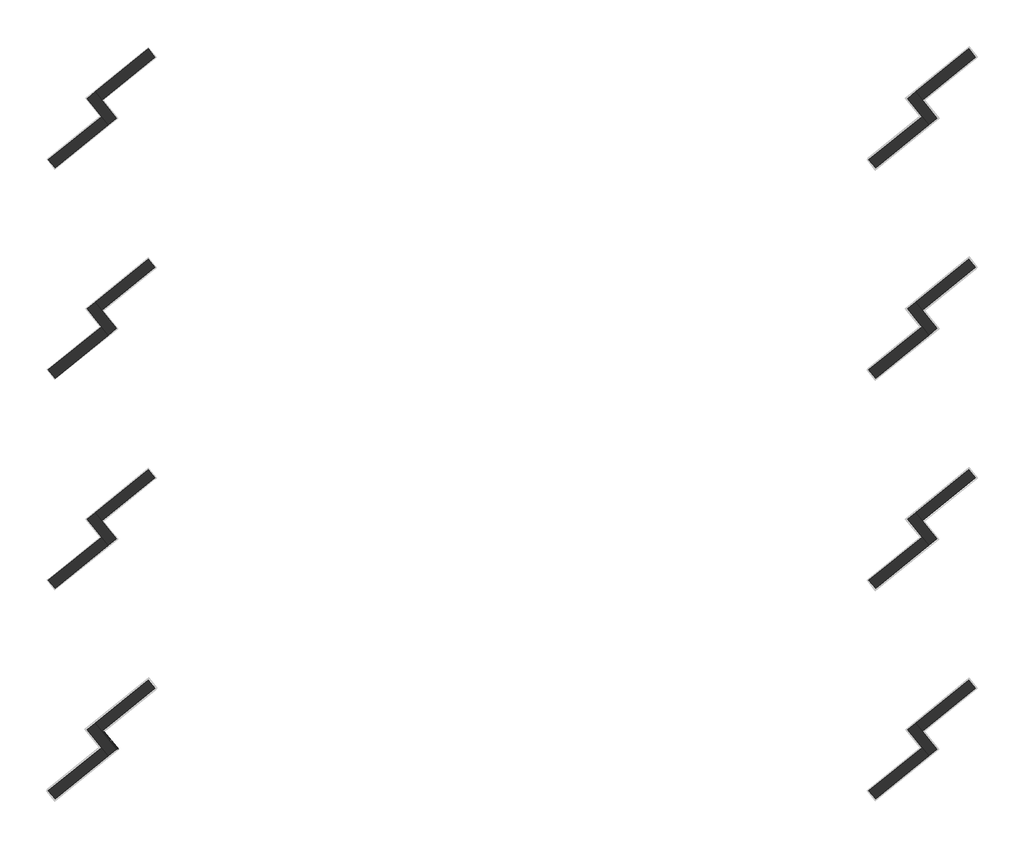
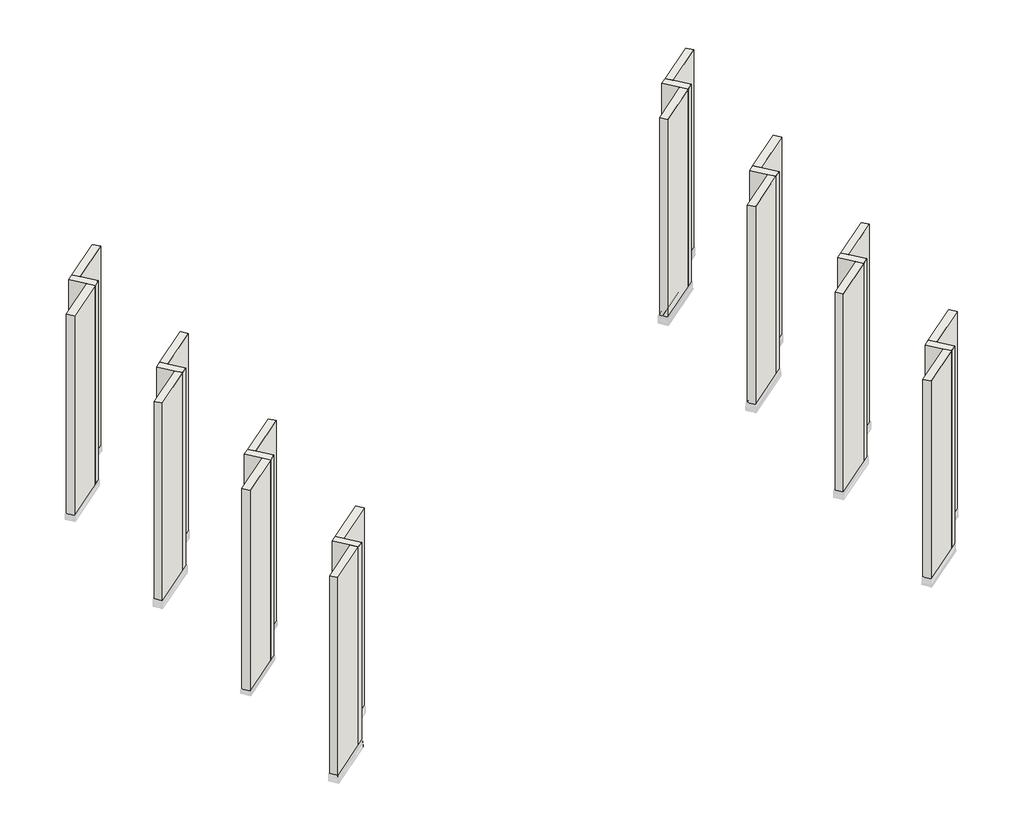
# One storey, part 1 of 21: 24 walls, 1 proxy.
"""IFC4 building model written with IfcOpenShell, lengths in millimetres."""

from ifc_helpers import new_model, si_unit, frame, origin, origin_with_axes, place, context, project, spatial, polyline, ellipse_curve, outline, extrude, faceted_brep, element, save
from ifc_brep_helpers import plane_surface, cylinder_surface, advanced_brep

model = new_model("IFC4")

# Units and contexts
model_context = context("Model", 3, world=origin())
ifc_project = project(units=[si_unit("LENGTHUNIT", "METRE", prefix="MILLI")], contexts=[model_context])

# Site, building, storey
site = spatial("IfcSite", under=ifc_project)
building = spatial("IfcBuilding", under=site)
storey = spatial("IfcBuildingStorey", under=building, Name="Izofleks 2D View", Elevation=0.0)

# Proxy
placement = place(None, origin())
element("IfcBuildingElementProxy", 1, Name="Wall Sweeps", at=placement, inside=storey, context=model_context, shape_type="AdvancedBrep", body=[
    advanced_brep(
    [(2310.0098051, -9175.9636256, 4.0913258), (2305.8972792, -9175.5313817, 4.0913258), (2305.8972792, -9175.5313817, 1.6712284), (2304.0535551, -9175.3375985, 1.6712284), (2304.0535551, -9175.3375985, 5.4018616), (2308.0598115, -9175.758673, 5.4018616), (2304.9170356, -9175.4283539, 29.4074278), (2297.2691492, -9174.6245287, 29.4074278), (2296.6513787, -9174.5595984, 27.7479135), (2297.3546937, -9174.6335198, 27.19808), (2294.5883072, -9174.3427608, 18.30079), (2296.8922655, -9174.5849166, 18.30079), (2296.8983438, -9174.5855554, 16.99999), (2289.8664199, -9173.8464705, 16.99999), (2289.8664199, -9173.8464705, 0.0), (2288.0380278, -9173.6542987, 0.0), (2288.0380278, -9173.6542987, 54.99999), (2289.8664199, -9173.8464705, 53.99999), (2289.8664199, -9173.8464705, 47.88979), (2292.7262724, -9174.1470531, 47.88979), (2293.3459448, -9174.2121833, 48.7737404), (2291.5537649, -9174.0238176, 49.9746979), (2293.8573559, -9174.2659347, 58.8370339), (2295.2404015, -9174.4112987, 59.6553004), (2300.994013, -9175.0160276, 59.6553004), (2295.3904336, -9174.4270677, 97.8474508), (2292.5268231, -9174.1260901, 97.8474508), (2292.5268231, -9174.1260901, 95.8923058), (2287.9670663, -9173.6468403, 95.8923058), (2287.9577385, -9173.64586, 97.1334422), (2290.7230749, -9173.9365085, 97.1334422), (2290.7230749, -9173.9365085, 99.0999564), (2296.9984662, -9174.5960787, 99.0999564), (2448.4602911, -9346.9357371, 4.0913258), (2435.4489522, -9345.5681903, 99.0999564), (2429.1735609, -9344.90862, 99.0999564), (2429.1735609, -9344.90862, 97.1334422), (2426.4082246, -9344.6179715, 97.1334422), (2426.4175523, -9344.6189519, 95.8923058), (2430.9773091, -9345.0982016, 95.8923058), (2430.9773091, -9345.0982016, 97.8474508), (2433.8409196, -9345.3991792, 97.8474508), (2439.444499, -9345.9881391, 59.6553004), (2433.6908876, -9345.3834102, 59.6553004), (2432.307842, -9345.2380463, 58.8370339), (2430.0042509, -9344.9959291, 49.9746979), (2431.7964309, -9345.1842948, 48.7737404), (2431.1767584, -9345.1191646, 47.88979), (2428.316906, -9344.818582, 47.88979), (2428.316906, -9344.818582, 53.99999), (2426.4885138, -9344.6264102, 54.99999), (2426.4885138, -9344.6264102, 0.0), (2428.316906, -9344.818582, 0.0), (2428.316906, -9344.818582, 16.99999), (2435.3488299, -9345.557667, 16.99999), (2435.3427515, -9345.5570281, 18.30079), (2433.0387933, -9345.3148723, 18.30079), (2435.8051798, -9345.6056313, 27.19808), (2435.1018647, -9345.5317099, 27.7479135), (2435.7196353, -9345.5966402, 29.4074278), (2443.3675216, -9346.4004654, 29.4074278), (2446.5102976, -9346.7307845, 5.4018616), (2442.5040411, -9346.30971, 5.4018616), (2442.5040411, -9346.30971, 1.6712284), (2444.3477653, -9346.5034932, 1.6712284), (2444.3477653, -9346.5034932, 4.0913258)],
    [
        (0, 1),
        (1, 2),
        (2, 3),
        (3, 4),
        (4, 5),
        (5, 6),
        (6, 7),
        (7, 8),
        (8, 9, ellipse_curve(frame((2296.6460985, -9174.5590434, 27.2421879), z_axis=(0.10452846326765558, 0.9945218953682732, 0.0), x_axis=(-0.994521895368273, 0.10452846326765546, 0.0)), 0.7152237, 0.5057396)),
        (9, 10),
        (10, 11),
        (11, 12, ellipse_curve(frame((2296.7280877, -9174.5676608, 17.649995), z_axis=(0.10452846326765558, 0.9945218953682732, 0.0), x_axis=(-0.9945218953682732, 0.10452846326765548, 0.0)), 0.935051, 0.6611809)),
        (12, 13),
        (13, 14),
        (14, 15),
        (15, 16),
        (16, 17, ellipse_curve(frame((2288.3885058, -9173.6911354, 53.9789482), z_axis=(0.10452846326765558, 0.9945218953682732, 0.0), x_axis=(-0.9945218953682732, 0.1045284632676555, 0.0)), 1.4863528, 1.0510102)),
        (17, 18),
        (18, 19),
        (19, 20),
        (20, 21, ellipse_curve(frame((2293.0254337, -9174.1784962, 49.8084295), z_axis=(0.10452846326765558, 0.9945218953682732, 0.0), x_axis=(-0.9945218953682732, 0.10452846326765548, 0.0)), 1.4983408, 1.0594869)),
        (21, 22),
        (22, 23, ellipse_curve(frame((2295.2404015, -9174.4112987, 58.6553004), z_axis=(0.10452846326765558, 0.9945218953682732, 0.0), x_axis=(-0.9945218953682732, 0.10452846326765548, 0.0)), 1.4142136, 1.0)),
        (23, 24),
        (24, 25),
        (25, 26),
        (26, 27),
        (27, 28),
        (28, 29),
        (29, 30),
        (30, 31),
        (31, 32),
        (32, 0),
        (33, 34),
        (34, 35),
        (35, 36),
        (36, 37),
        (37, 38),
        (38, 39),
        (39, 40),
        (40, 41),
        (41, 42),
        (42, 43),
        (43, 44, ellipse_curve(frame((2433.6908876, -9345.3834102, 58.6553004), z_axis=(-0.1045284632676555, -0.9945218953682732, 0.0), x_axis=(-0.9945218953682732, 0.1045284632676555, 0.0)), 1.4142136, 1.0)),
        (44, 45),
        (45, 46, ellipse_curve(frame((2431.4759198, -9345.1506077, 49.8084295), z_axis=(-0.1045284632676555, -0.9945218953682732, 0.0), x_axis=(-0.9945218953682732, 0.1045284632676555, 0.0)), 1.4983408, 1.0594869)),
        (46, 47),
        (47, 48),
        (48, 49),
        (49, 50, ellipse_curve(frame((2426.8389918, -9344.663247, 53.9789482), z_axis=(-0.1045284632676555, -0.9945218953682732, 0.0), x_axis=(-0.9945218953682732, 0.10452846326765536, 0.0)), 1.4863528, 1.0510102)),
        (50, 51),
        (51, 52),
        (52, 53),
        (53, 54),
        (54, 55, ellipse_curve(frame((2435.1785737, -9345.5397723, 17.649995), z_axis=(-0.1045284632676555, -0.9945218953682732, 0.0), x_axis=(-0.9945218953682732, 0.1045284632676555, 0.0)), 0.935051, 0.6611809)),
        (55, 56),
        (56, 57),
        (57, 58, ellipse_curve(frame((2435.0965845, -9345.5311549, 27.2421879), z_axis=(-0.1045284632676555, -0.9945218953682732, 0.0), x_axis=(-0.9945218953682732, 0.10452846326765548, 0.0)), 0.7152237, 0.5057396)),
        (58, 59),
        (59, 60),
        (60, 61),
        (61, 62),
        (62, 63),
        (63, 64),
        (64, 65),
        (65, 33),
        (0, 33),
        (65, 1),
        (64, 2),
        (63, 3),
        (62, 4),
        (61, 5),
        (60, 6),
        (59, 7),
        (58, 8),
        (57, 9),
        (56, 10),
        (55, 11),
        (54, 12),
        (53, 13),
        (52, 14),
        (51, 15),
        (50, 16),
        (49, 17),
        (48, 18),
        (47, 19),
        (46, 20),
        (45, 21),
        (44, 22),
        (43, 23),
        (42, 24),
        (41, 25),
        (40, 26),
        (39, 27),
        (38, 28),
        (37, 29),
        (36, 30),
        (35, 31),
        (34, 32),
    ],
    [
        plane_surface(frame((2288.0380278, -9173.6542987, -304.8), z_axis=(0.10452846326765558, 0.9945218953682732, 0.0), x_axis=(0.9945218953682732, -0.10452846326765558, 0.0))),
        plane_surface(frame((2426.4885138, -9344.6264102, 304.8), z_axis=(-0.1045284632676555, -0.9945218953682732, 0.0), x_axis=(-0.9945218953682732, 0.1045284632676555, 0.0))),
        plane_surface(frame((2310.0098051, -9175.9636256, 4.0913258), z_axis=(0.0, 0.0, -1.0), x_axis=(0.6293203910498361, -0.777145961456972, 0.0))),
        plane_surface(frame((2305.8972792, -9175.5313817, 4.0913258), z_axis=(0.7771459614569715, 0.6293203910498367, 0.0), x_axis=(0.6293203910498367, -0.7771459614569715, 0.0))),
        plane_surface(frame((2305.8972792, -9175.5313817, 1.6712284), z_axis=(0.0, 0.0, -1.0), x_axis=(0.6293203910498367, -0.7771459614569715, 0.0))),
        plane_surface(frame((2304.0535551, -9175.3375985, 1.6712284), z_axis=(-0.7771459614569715, -0.6293203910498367, 0.0), x_axis=(0.6293203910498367, -0.7771459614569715, 0.0))),
        plane_surface(frame((2304.0535551, -9175.3375985, 5.4018616), z_axis=(0.0, 0.0, 1.0), x_axis=(0.6293203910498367, -0.7771459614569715, 0.0))),
        plane_surface(frame((2308.0598115, -9175.758673, 5.4018616), z_axis=(-0.7738008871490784, -0.626611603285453, -0.09268271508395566), x_axis=(0.6293203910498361, -0.777145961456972, 0.0))),
        plane_surface(frame((2304.9170356, -9175.4283539, 29.4074278), z_axis=(0.0, 0.0, -1.0), x_axis=(0.6293203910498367, -0.7771459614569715, 0.0))),
        plane_surface(frame((2297.2691492, -9174.6245287, 29.4074278), z_axis=(0.7512763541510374, 0.6083715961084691, -0.2558668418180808), x_axis=(0.6293203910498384, -0.7771459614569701, 0.0))),
        cylinder_surface(frame((2292.7944355, -9169.8026357, 27.2421879), z_axis=(-0.6293203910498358, 0.7771459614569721, 0.0), x_axis=(0.00576896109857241, 0.004671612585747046, 0.9999724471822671)), 0.5057396),
        plane_surface(frame((2297.3546937, -9174.6335198, 27.19808), z_axis=(0.7588248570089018, 0.6144842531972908, -0.21585629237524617), x_axis=(0.6293203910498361, -0.777145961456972, 0.0))),
        plane_surface(frame((2294.5883072, -9174.3427608, 18.30079), z_axis=(0.0, 0.0, 1.0), x_axis=(0.6293203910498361, -0.777145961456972, 0.0))),
        cylinder_surface(frame((2292.8397388, -9169.7659498, 17.649995), z_axis=(-0.6293203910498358, 0.7771459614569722, 0.0), x_axis=(0.1422838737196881, 0.11521920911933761, 0.9830970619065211)), 0.6611809),
        plane_surface(frame((2296.8983438, -9174.5855554, 16.99999), z_axis=(0.0, 0.0, -1.0), x_axis=(0.6293203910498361, -0.777145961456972, 0.0))),
        plane_surface(frame((2289.8664199, -9173.8464705, 16.99999), z_axis=(0.777145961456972, 0.6293203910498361, 0.0), x_axis=(0.6293203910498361, -0.777145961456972, 0.0))),
        plane_surface(frame((2289.8664199, -9173.8464705, 0.0), z_axis=(0.0, 0.0, -1.0), x_axis=(0.6293203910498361, -0.777145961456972, 0.0))),
        plane_surface(frame((2288.0380278, -9173.6542987, 0.0), z_axis=(-0.777145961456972, -0.6293203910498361, 0.0), x_axis=(0.6293203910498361, -0.777145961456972, 0.0))),
        cylinder_surface(frame((2288.2316851, -9173.497478, 53.9789482), z_axis=(-0.6293203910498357, 0.7771459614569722, 0.0), x_axis=(-0.18425834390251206, -0.14920946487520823, 0.9714861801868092)), 1.0510102),
        plane_surface(frame((2289.8664199, -9173.8464705, 53.99999), z_axis=(0.777145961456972, 0.6293203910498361, 0.0), x_axis=(0.6293203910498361, -0.777145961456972, 0.0))),
        plane_surface(frame((2289.8664199, -9173.8464705, 47.88979), z_axis=(0.0, 0.0, 1.0), x_axis=(0.6293203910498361, -0.777145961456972, 0.0))),
        plane_surface(frame((2292.7262724, -9174.1470531, 47.88979), z_axis=(-0.6955364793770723, -0.5632343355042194, 0.4460897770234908), x_axis=(0.6293203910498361, -0.777145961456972, 0.0))),
        cylinder_surface(frame((2290.7938295, -9171.4226945, 49.8084295), z_axis=(-0.6293203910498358, 0.7771459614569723, 0.0), x_axis=(0.16715552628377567, 0.1353598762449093, -0.9765944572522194)), 1.0594869),
        plane_surface(frame((2291.5537649, -9174.0238176, 49.9746979), z_axis=(-0.7642047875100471, -0.6188408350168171, 0.18173349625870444), x_axis=(0.6293203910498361, -0.777145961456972, 0.0))),
        cylinder_surface(frame((2292.0177146, -9170.4316118, 58.6553004), z_axis=(-0.629320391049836, 0.7771459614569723, 0.0), x_axis=(-0.7642047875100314, -0.618840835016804, 0.1817334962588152)), 1.0),
        plane_surface(frame((2295.2404015, -9174.4112987, 59.6553004), z_axis=(0.0, 0.0, 1.0), x_axis=(0.6293203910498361, -0.777145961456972, 0.0))),
        plane_surface(frame((2300.994013, -9175.0160276, 59.6553004), z_axis=(-0.7729515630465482, -0.6259238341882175, -0.1037556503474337), x_axis=(0.6293203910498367, -0.7771459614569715, 0.0))),
        plane_surface(frame((2295.3904336, -9174.4270677, 97.8474508), z_axis=(0.0, 0.0, -1.0), x_axis=(0.6293203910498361, -0.777145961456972, 0.0))),
        plane_surface(frame((2292.5268231, -9174.1260901, 97.8474508), z_axis=(0.777145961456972, 0.6293203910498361, 0.0), x_axis=(0.6293203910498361, -0.777145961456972, 0.0))),
        plane_surface(frame((2292.5268231, -9174.1260901, 95.8923058), z_axis=(0.0, 0.0, -1.0), x_axis=(0.6293203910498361, -0.777145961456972, 0.0))),
        plane_surface(frame((2287.9670663, -9173.6468403, 95.8923058), z_axis=(-0.7771348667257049, -0.6293114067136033, -0.0053434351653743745), x_axis=(0.6293203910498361, -0.777145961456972, 0.0))),
        plane_surface(frame((2287.9577385, -9173.64586, 97.1334422), z_axis=(0.0, 0.0, 1.0), x_axis=(0.6293203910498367, -0.7771459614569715, 0.0))),
        plane_surface(frame((2290.7230749, -9173.9365085, 97.1334422), z_axis=(-0.777145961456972, -0.6293203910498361, 0.0), x_axis=(0.6293203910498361, -0.777145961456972, 0.0))),
        plane_surface(frame((2290.7230749, -9173.9365085, 99.0999564), z_axis=(0.0, 0.0, 1.0), x_axis=(0.6293203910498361, -0.777145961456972, 0.0))),
        plane_surface(frame((2296.9984662, -9174.5960787, 99.0999564), z_axis=(0.7734878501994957, 0.6263581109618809, 0.09691265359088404), x_axis=(0.6293203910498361, -0.777145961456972, 0.0))),
    ],
    [
        (0, [[1, 2, 3, 4, 5, 6, 7, 8, 9, 10, 11, 12, 13, 14, 15, 16, 17, 18, 19, 20, 21, 22, 23, 24, 25, 26, 27, 28, 29, 30, 31, 32, 33]]),
        (1, [[34, 35, 36, 37, 38, 39, 40, 41, 42, 43, 44, 45, 46, 47, 48, 49, 50, 51, 52, 53, 54, 55, 56, 57, 58, 59, 60, 61, 62, 63, 64, 65, 66]]),
        (2, [[-1, 67, -66, 68]]),
        (3, [[-2, -68, -65, 69]]),
        (4, [[-3, -69, -64, 70]]),
        (5, [[-4, -70, -63, 71]]),
        (6, [[-5, -71, -62, 72]]),
        (7, [[-6, -72, -61, 73]]),
        (8, [[-7, -73, -60, 74]]),
        (9, [[-8, -74, -59, 75]]),
        (10, [[-9, -75, -58, 76]]),
        (11, [[-10, -76, -57, 77]]),
        (12, [[-11, -77, -56, 78]]),
        (13, [[-12, -78, -55, 79]]),
        (14, [[-13, -79, -54, 80]]),
        (15, [[-14, -80, -53, 81]]),
        (16, [[-15, -81, -52, 82]]),
        (17, [[-16, -82, -51, 83]]),
        (18, [[-17, -83, -50, 84]]),
        (19, [[-18, -84, -49, 85]]),
        (20, [[-19, -85, -48, 86]]),
        (21, [[-20, -86, -47, 87]]),
        (22, [[-21, -87, -46, 88]]),
        (23, [[-22, -88, -45, 89]]),
        (24, [[-23, -89, -44, 90]]),
        (25, [[-24, -90, -43, 91]]),
        (26, [[-25, -91, -42, 92]]),
        (27, [[-26, -92, -41, 93]]),
        (28, [[-27, -93, -40, 94]]),
        (29, [[-28, -94, -39, 95]]),
        (30, [[-29, -95, -38, 96]]),
        (31, [[-30, -96, -37, 97]]),
        (32, [[-31, -97, -36, 98]]),
        (33, [[-32, -98, -35, 99]]),
        (34, [[-33, -99, -34, -67]]),
    ],
),
])

# Walls
element("IfcWall", 2, ObjectType="Generic - 100mm - B11-1", at=placement, inside=storey, context=model_context, shape_type="Brep", body=[
    faceted_brep([(2730.2508636, -2686.8814484, 0.0), (2225.1059886, -3095.9397026, 0.0), (2225.1059886, -3095.9397026, 54.9539392), (2225.1059886, -3095.9397026, 2850.0), (2730.2508636, -2686.8814484, 2850.0), (2730.2508636, -2686.8814484, 54.9539392), (2288.0380278, -3173.6542987, 0.0), (2793.1829027, -2764.5960445, 0.0), (2793.1829027, -2764.5960445, 54.9539392), (2793.1829027, -2764.5960445, 2850.0), (2288.0380278, -3173.6542987, 2850.0), (2288.0380278, -3173.6542987, 54.9539392)], [[[0, 1, 2, 3, 4, 5]], [[6, 7, 8, 9, 10, 11]], [[1, 0, 7, 6]], [[4, 3, 10, 9]], [[4, 9, 8, 7, 0, 5]], [[1, 6, 11, 10, 3, 2]]]),
])
element("IfcWall", 3, ObjectType="Generic - 100mm - B11-1", at=placement, inside=storey, context=model_context, shape_type="Brep", body=[
    faceted_brep([(2348.7739176, -3407.5584493, 2850.0), (2285.8418785, -3329.8438532, 2850.0), (2147.3913925, -3158.8717417, 2850.0), (2147.3913925, -3158.8717417, 54.9539392), (2147.3913925, -3158.8717417, 0.0), (2285.8418785, -3329.8438532, 0.0), (2348.7739176, -3407.5584493, 0.0), (2348.7739176, -3407.5584493, 54.9539392), (2225.1059886, -3095.9397026, 2850.0), (2288.0380278, -3173.6542987, 2850.0), (2426.4885138, -3344.6264102, 2850.0), (2426.4885138, -3344.6264102, 54.9539392), (2426.4885138, -3344.6264102, 0.0), (2288.0380278, -3173.6542987, 0.0), (2225.1059886, -3095.9397026, 0.0), (2225.1059886, -3095.9397026, 54.9539392)], [[[0, 1, 2, 3, 4, 5, 6, 7]], [[8, 9, 10, 11, 12, 13, 14, 15]], [[4, 14, 13, 12, 6, 5]], [[2, 1, 0, 10, 9, 8]], [[2, 8, 15, 14, 4, 3]], [[6, 12, 11, 10, 0, 7]]]),
])
element("IfcWall", 4, ObjectType="Generic - 100mm - B11-1", at=placement, inside=storey, context=model_context, shape_type="Brep", body=[
    faceted_brep([(2285.8418785, -3329.8438532, 0.0), (1780.6970036, -3738.9021074, 0.0), (1780.6970036, -3738.9021074, 54.9539392), (1780.6970036, -3738.9021074, 2850.0), (2285.8418785, -3329.8438532, 2850.0), (2285.8418785, -3329.8438532, 54.9539392), (1843.6290427, -3816.6167035, 0.0), (2348.7739176, -3407.5584493, 0.0), (2348.7739176, -3407.5584493, 54.9539392), (2348.7739176, -3407.5584493, 2850.0), (1843.6290427, -3816.6167035, 2850.0), (1843.6290427, -3816.6167035, 54.9539392)], [[[0, 1, 2, 3, 4, 5]], [[6, 7, 8, 9, 10, 11]], [[1, 0, 7, 6]], [[1, 6, 11, 10, 3, 2]], [[4, 3, 10, 9]], [[4, 9, 8, 7, 0, 5]]]),
])
element("IfcWall", 5, ObjectType="Generic - 100mm - B11-2", at=placement, inside=storey, context=model_context, shape_type="Brep", body=[
    faceted_brep([(2730.2508636, -4686.8814484, 0.0), (2225.1059886, -5095.9397026, 0.0), (2225.1059886, -5095.9397026, 54.99999), (2225.1059886, -5095.9397026, 2850.0), (2730.2508636, -4686.8814484, 2850.0), (2730.2508636, -4686.8814484, 54.99999), (2288.0380278, -5173.6542987, 0.0), (2793.1829027, -4764.5960445, 0.0), (2793.1829027, -4764.5960445, 54.99999), (2793.1829027, -4764.5960445, 2850.0), (2288.0380278, -5173.6542987, 2850.0), (2288.0380278, -5173.6542987, 54.99999)], [[[0, 1, 2, 3, 4, 5]], [[6, 7, 8, 9, 10, 11]], [[1, 0, 7, 6]], [[4, 3, 10, 9]], [[4, 9, 8, 7, 0, 5]], [[1, 6, 11, 10, 3, 2]]]),
])
element("IfcWall", 6, ObjectType="Generic - 100mm - B11-2", at=placement, inside=storey, context=model_context, shape_type="Brep", body=[
    faceted_brep([(2348.7739176, -5407.5584493, 2850.0), (2285.8418785, -5329.8438532, 2850.0), (2147.3913925, -5158.8717417, 2850.0), (2147.3913925, -5158.8717417, 54.99999), (2147.3913925, -5158.8717417, 0.0), (2285.8418785, -5329.8438532, 0.0), (2348.7739176, -5407.5584493, 0.0), (2348.7739176, -5407.5584493, 54.99999), (2225.1059886, -5095.9397026, 2850.0), (2288.0380278, -5173.6542987, 2850.0), (2426.4885138, -5344.6264102, 2850.0), (2426.4885138, -5344.6264102, 54.99999), (2426.4885138, -5344.6264102, 0.0), (2288.0380278, -5173.6542987, 0.0), (2225.1059886, -5095.9397026, 0.0), (2225.1059886, -5095.9397026, 54.99999)], [[[0, 1, 2, 3, 4, 5, 6, 7]], [[8, 9, 10, 11, 12, 13, 14, 15]], [[4, 14, 13, 12, 6, 5]], [[2, 1, 0, 10, 9, 8]], [[2, 8, 15, 14, 4, 3]], [[6, 12, 11, 10, 0, 7]]]),
])
element("IfcWall", 7, ObjectType="Generic - 100mm - B11-2", at=placement, inside=storey, context=model_context, shape_type="Brep", body=[
    faceted_brep([(2285.8418785, -5329.8438532, 0.0), (1780.6970036, -5738.9021074, 0.0), (1780.6970036, -5738.9021074, 54.99999), (1780.6970036, -5738.9021074, 2850.0), (2285.8418785, -5329.8438532, 2850.0), (2285.8418785, -5329.8438532, 54.99999), (1843.6290427, -5816.6167035, 0.0), (2348.7739176, -5407.5584493, 0.0), (2348.7739176, -5407.5584493, 54.99999), (2348.7739176, -5407.5584493, 2850.0), (1843.6290427, -5816.6167035, 2850.0), (1843.6290427, -5816.6167035, 54.99999)], [[[0, 1, 2, 3, 4, 5]], [[6, 7, 8, 9, 10, 11]], [[1, 0, 7, 6]], [[1, 6, 11, 10, 3, 2]], [[4, 3, 10, 9]], [[4, 9, 8, 7, 0, 5]]]),
])
element("IfcWall", 8, ObjectType="Generic - 100mm - B11-3", at=placement, inside=storey, context=model_context, shape_type="Brep", body=[
    faceted_brep([(2730.2508636, -6686.8814484, 0.0), (2225.1059886, -7095.9397026, 0.0), (2225.1059886, -7095.9397026, 54.99999), (2225.1059886, -7095.9397026, 2850.0), (2730.2508636, -6686.8814484, 2850.0), (2730.2508636, -6686.8814484, 54.99999), (2288.0380278, -7173.6542987, 0.0), (2793.1829027, -6764.5960445, 0.0), (2793.1829027, -6764.5960445, 54.99999), (2793.1829027, -6764.5960445, 2850.0), (2288.0380278, -7173.6542987, 2850.0), (2288.0380278, -7173.6542987, 54.99999)], [[[0, 1, 2, 3, 4, 5]], [[6, 7, 8, 9, 10, 11]], [[1, 0, 7, 6]], [[4, 3, 10, 9]], [[4, 9, 8, 7, 0, 5]], [[1, 6, 11, 10, 3, 2]]]),
])
element("IfcWall", 9, ObjectType="Generic - 100mm - B11-3", at=placement, inside=storey, context=model_context, shape_type="Brep", body=[
    faceted_brep([(2348.7739176, -7407.5584493, 2850.0), (2285.8418785, -7329.8438532, 2850.0), (2147.3913925, -7158.8717417, 2850.0), (2147.3913925, -7158.8717417, 54.99999), (2147.3913925, -7158.8717417, 0.0), (2285.8418785, -7329.8438532, 0.0), (2348.7739176, -7407.5584493, 0.0), (2348.7739176, -7407.5584493, 54.99999), (2225.1059886, -7095.9397026, 2850.0), (2288.0380278, -7173.6542987, 2850.0), (2426.4885138, -7344.6264102, 2850.0), (2426.4885138, -7344.6264102, 54.99999), (2426.4885138, -7344.6264102, 0.0), (2288.0380278, -7173.6542987, 0.0), (2225.1059886, -7095.9397026, 0.0), (2225.1059886, -7095.9397026, 54.99999)], [[[0, 1, 2, 3, 4, 5, 6, 7]], [[8, 9, 10, 11, 12, 13, 14, 15]], [[4, 14, 13, 12, 6, 5]], [[2, 1, 0, 10, 9, 8]], [[2, 8, 15, 14, 4, 3]], [[6, 12, 11, 10, 0, 7]]]),
])
element("IfcWall", 10, ObjectType="Generic - 100mm - B11-3", at=placement, inside=storey, context=model_context, shape_type="Brep", body=[
    faceted_brep([(2285.8418785, -7329.8438532, 0.0), (1780.6970036, -7738.9021074, 0.0), (1780.6970036, -7738.9021074, 54.99999), (1780.6970036, -7738.9021074, 2850.0), (2285.8418785, -7329.8438532, 2850.0), (2285.8418785, -7329.8438532, 54.99999), (1843.6290427, -7816.6167035, 0.0), (2348.7739176, -7407.5584493, 0.0), (2348.7739176, -7407.5584493, 54.99999), (2348.7739176, -7407.5584493, 2850.0), (1843.6290427, -7816.6167035, 2850.0), (1843.6290427, -7816.6167035, 54.99999)], [[[0, 1, 2, 3, 4, 5]], [[6, 7, 8, 9, 10, 11]], [[1, 0, 7, 6]], [[1, 6, 11, 10, 3, 2]], [[4, 3, 10, 9]], [[4, 9, 8, 7, 0, 5]]]),
])
element("IfcWall", 11, ObjectType="Generic - 100mm - B11-4", at=placement, inside=storey, context=model_context, shape_type="Brep", body=[
    faceted_brep([(2730.2508636, -8686.8814484, 0.0), (2225.1059886, -9095.9397026, 0.0), (2225.1059886, -9095.9397026, 54.99999), (2225.1059886, -9095.9397026, 95.8923058), (2225.1059886, -9095.9397026, 97.1334422), (2225.1059886, -9095.9397026, 2850.0), (2730.2508636, -8686.8814484, 2850.0), (2730.2508636, -8686.8814484, 97.1334422), (2730.2508636, -8686.8814484, 95.8923058), (2730.2508636, -8686.8814484, 54.99999), (2793.1829027, -8764.5960445, 0.0), (2793.1829027, -8764.5960445, 54.99999), (2793.1829027, -8764.5960445, 95.8923058), (2793.1829027, -8764.5960445, 97.1334422), (2793.1829027, -8764.5960445, 2850.0), (2288.0380278, -9173.6542987, 2850.0), (2288.0380278, -9173.6542987, 54.99999), (2288.0380278, -9173.6542987, 0.0)], [[[0, 1, 2, 3, 4, 5, 6, 7, 8, 9]], [[10, 11, 12, 13, 14, 15, 16, 17]], [[1, 0, 10, 17]], [[6, 5, 15, 14]], [[0, 9, 8, 7, 6, 14, 13, 12, 11, 10]], [[5, 4, 3, 2, 1, 17, 16, 15]]]),
])
element("IfcWall", 12, ObjectType="Generic - 100mm - B11-4", at=placement, inside=storey, context=model_context, shape_type="Brep", body=[
    faceted_brep([(2147.3913925, -9158.8717417, 0.0), (2285.8418785, -9329.8438532, 0.0), (2348.7739176, -9407.5584493, 0.0), (2348.7739176, -9407.5584493, 54.99999), (2348.7739176, -9407.5584493, 95.8923058), (2348.7739176, -9407.5584493, 97.1334422), (2348.7739176, -9407.5584493, 2850.0), (2285.8418785, -9329.8438532, 2850.0), (2147.3913925, -9158.8717417, 2850.0), (2147.3913925, -9158.8717417, 97.1334422), (2147.3913925, -9158.8717417, 95.8923058), (2147.3913925, -9158.8717417, 54.99999), (2225.1059886, -9095.9397026, 0.0), (2225.1059886, -9095.9397026, 54.99999), (2225.1059886, -9095.9397026, 95.8923058), (2225.1059886, -9095.9397026, 97.1334422), (2225.1059886, -9095.9397026, 2850.0), (2288.0380278, -9173.6542987, 2850.0), (2426.4885138, -9344.6264102, 2850.0), (2426.4885138, -9344.6264102, 97.1334422), (2426.4885138, -9344.6264102, 95.8923058), (2426.4885138, -9344.6264102, 54.99999), (2426.4885138, -9344.6264102, 0.0), (2288.0380278, -9173.6542987, 0.0)], [[[0, 1, 2, 3, 4, 5, 6, 7, 8, 9, 10, 11]], [[12, 13, 14, 15, 16, 17, 18, 19, 20, 21, 22, 23]], [[2, 1, 0, 12, 23, 22]], [[8, 7, 6, 18, 17, 16]], [[0, 11, 10, 9, 8, 16, 15, 14, 13, 12]], [[6, 5, 4, 3, 2, 22, 21, 20, 19, 18]]]),
])
element("IfcWall", 13, ObjectType="Generic - 100mm - B11-4", at=placement, inside=storey, context=model_context, shape_type="Brep", body=[
    faceted_brep([(2285.8418785, -9329.8438532, 0.0), (1780.6970036, -9738.9021074, 0.0), (1780.6970036, -9738.9021074, 54.99999), (1780.6970036, -9738.9021074, 95.8923058), (1780.6970036, -9738.9021074, 97.1334422), (1780.6970036, -9738.9021074, 2850.0), (2285.8418785, -9329.8438532, 2850.0), (2285.8418785, -9329.8438532, 97.1334422), (2285.8418785, -9329.8438532, 95.8923058), (2285.8418785, -9329.8438532, 54.99999), (2348.7739176, -9407.5584493, 0.0), (2348.7739176, -9407.5584493, 54.99999), (2348.7739176, -9407.5584493, 95.8923058), (2348.7739176, -9407.5584493, 97.1334422), (2348.7739176, -9407.5584493, 2850.0), (1843.6290427, -9816.6167035, 2850.0), (1843.6290427, -9816.6167035, 97.1334422), (1843.6290427, -9816.6167035, 95.8923058), (1843.6290427, -9816.6167035, 54.99999), (1843.6290427, -9816.6167035, 0.0)], [[[0, 1, 2, 3, 4, 5, 6, 7, 8, 9]], [[10, 11, 12, 13, 14, 15, 16, 17, 18, 19]], [[1, 0, 10, 19]], [[5, 4, 3, 2, 1, 19, 18, 17, 16, 15]], [[6, 5, 15, 14]], [[0, 9, 8, 7, 6, 14, 13, 12, 11, 10]]]),
])
element("IfcWall", 14, ObjectType="Generic - 100mm - B11-B", at=placement, inside=storey, context=model_context, shape_type="Brep", body=[
    faceted_brep([(10530.2508636, -4686.8814484, 0.0), (10025.1059886, -5095.9397026, 0.0), (10025.1059886, -5095.9397026, 54.99999), (10025.1059886, -5095.9397026, 101.6586119), (10025.1059886, -5095.9397026, 102.9586119), (10025.1059886, -5095.9397026, 2850.0), (10530.2508636, -4686.8814484, 2850.0), (10530.2508636, -4686.8814484, 102.9586119), (10530.2508636, -4686.8814484, 101.6586119), (10530.2508636, -4686.8814484, 54.99999), (10088.0380278, -5173.6542987, 0.0), (10593.1829027, -4764.5960445, 0.0), (10593.1829027, -4764.5960445, 54.99999), (10593.1829027, -4764.5960445, 101.6586119), (10593.1829027, -4764.5960445, 102.9586119), (10593.1829027, -4764.5960445, 2850.0), (10088.0380278, -5173.6542987, 2850.0), (10088.0380278, -5173.6542987, 102.9586119), (10088.0380278, -5173.6542987, 101.6586119), (10088.0380278, -5173.6542987, 54.99999)], [[[0, 1, 2, 3, 4, 5, 6, 7, 8, 9]], [[10, 11, 12, 13, 14, 15, 16, 17, 18, 19]], [[1, 0, 11, 10]], [[6, 5, 16, 15]], [[6, 15, 14, 13, 12, 11, 0, 9, 8, 7]], [[1, 10, 19, 18, 17, 16, 5, 4, 3, 2]]]),
])
element("IfcWall", 15, ObjectType="Generic - 100mm - B11-B", at=placement, inside=storey, context=model_context, shape_type="Brep", body=[
    faceted_brep([(10148.7739176, -5407.5584493, 2850.0), (10085.8418785, -5329.8438532, 2850.0), (9947.3913925, -5158.8717417, 2850.0), (9947.3913925, -5158.8717417, 102.9586119), (9947.3913925, -5158.8717417, 101.6586119), (9947.3913925, -5158.8717417, 54.99999), (9947.3913925, -5158.8717417, 0.0), (10085.8418785, -5329.8438532, 0.0), (10148.7739176, -5407.5584493, 0.0), (10148.7739176, -5407.5584493, 54.99999), (10148.7739176, -5407.5584493, 101.6586119), (10148.7739176, -5407.5584493, 102.9586119), (10025.1059886, -5095.9397026, 2850.0), (10088.0380278, -5173.6542987, 2850.0), (10226.4885138, -5344.6264102, 2850.0), (10226.4885138, -5344.6264102, 102.9586119), (10226.4885138, -5344.6264102, 101.6586119), (10226.4885138, -5344.6264102, 54.99999), (10226.4885138, -5344.6264102, 0.0), (10088.0380278, -5173.6542987, 0.0), (10025.1059886, -5095.9397026, 0.0), (10025.1059886, -5095.9397026, 54.99999), (10025.1059886, -5095.9397026, 101.6586119), (10025.1059886, -5095.9397026, 102.9586119)], [[[0, 1, 2, 3, 4, 5, 6, 7, 8, 9, 10, 11]], [[12, 13, 14, 15, 16, 17, 18, 19, 20, 21, 22, 23]], [[6, 20, 19, 18, 8, 7]], [[2, 1, 0, 14, 13, 12]], [[2, 12, 23, 22, 21, 20, 6, 5, 4, 3]], [[8, 18, 17, 16, 15, 14, 0, 11, 10, 9]]]),
])
element("IfcWall", 16, ObjectType="Generic - 100mm - B11-B", at=placement, inside=storey, context=model_context, shape_type="Brep", body=[
    faceted_brep([(10085.8418785, -5329.8438532, 0.0), (9580.6970036, -5738.9021074, 0.0), (9580.6970036, -5738.9021074, 54.99999), (9580.6970036, -5738.9021074, 101.6586119), (9580.6970036, -5738.9021074, 102.9586119), (9580.6970036, -5738.9021074, 2850.0), (10085.8418785, -5329.8438532, 2850.0), (10085.8418785, -5329.8438532, 102.9586119), (10085.8418785, -5329.8438532, 101.6586119), (10085.8418785, -5329.8438532, 54.99999), (9643.6290427, -5816.6167035, 0.0), (10148.7739176, -5407.5584493, 0.0), (10148.7739176, -5407.5584493, 54.99999), (10148.7739176, -5407.5584493, 101.6586119), (10148.7739176, -5407.5584493, 102.9586119), (10148.7739176, -5407.5584493, 2850.0), (9643.6290427, -5816.6167035, 2850.0), (9643.6290427, -5816.6167035, 102.9586119), (9643.6290427, -5816.6167035, 101.6586119), (9643.6290427, -5816.6167035, 54.99999)], [[[0, 1, 2, 3, 4, 5, 6, 7, 8, 9]], [[10, 11, 12, 13, 14, 15, 16, 17, 18, 19]], [[1, 0, 11, 10]], [[1, 10, 19, 18, 17, 16, 5, 4, 3, 2]], [[6, 5, 16, 15]], [[6, 15, 14, 13, 12, 11, 0, 9, 8, 7]]]),
])
element("IfcWall", 17, ObjectType="Generic - 100mm - B11-E", at=placement, inside=storey, context=model_context, shape_type="Brep", body=[
    faceted_brep([(10530.2508636, -2686.8814484, 0.0), (10025.1059886, -3095.9397026, 0.0), (10025.1059886, -3095.9397026, 54.99999), (10025.1059886, -3095.9397026, 101.4584585), (10025.1059886, -3095.9397026, 102.9584585), (10025.1059886, -3095.9397026, 2850.0), (10530.2508636, -2686.8814484, 2850.0), (10530.2508636, -2686.8814484, 102.9584585), (10530.2508636, -2686.8814484, 101.4584585), (10530.2508636, -2686.8814484, 54.99999), (10088.0380278, -3173.6542987, 0.0), (10593.1829027, -2764.5960445, 0.0), (10593.1829027, -2764.5960445, 54.99999), (10593.1829027, -2764.5960445, 101.4584585), (10593.1829027, -2764.5960445, 102.9584585), (10593.1829027, -2764.5960445, 2850.0), (10088.0380278, -3173.6542987, 2850.0), (10088.0380278, -3173.6542987, 102.9584585), (10088.0380278, -3173.6542987, 101.4584585), (10088.0380278, -3173.6542987, 54.99999)], [[[0, 1, 2, 3, 4, 5, 6, 7, 8, 9]], [[10, 11, 12, 13, 14, 15, 16, 17, 18, 19]], [[1, 0, 11, 10]], [[6, 5, 16, 15]], [[6, 15, 14, 13, 12, 11, 0, 9, 8, 7]], [[1, 10, 19, 18, 17, 16, 5, 4, 3, 2]]]),
])
element("IfcWall", 18, ObjectType="Generic - 100mm - B11-E", at=placement, inside=storey, context=model_context, shape_type="Brep", body=[
    faceted_brep([(10148.7739176, -3407.5584493, 2850.0), (10085.8418785, -3329.8438532, 2850.0), (9947.3913925, -3158.8717417, 2850.0), (9947.3913925, -3158.8717417, 102.9584585), (9947.3913925, -3158.8717417, 101.4584585), (9947.3913925, -3158.8717417, 54.99999), (9947.3913925, -3158.8717417, 0.0), (10085.8418785, -3329.8438532, 0.0), (10148.7739176, -3407.5584493, 0.0), (10148.7739176, -3407.5584493, 54.99999), (10148.7739176, -3407.5584493, 101.4584585), (10148.7739176, -3407.5584493, 102.9584585), (10025.1059886, -3095.9397026, 2850.0), (10088.0380278, -3173.6542987, 2850.0), (10226.4885138, -3344.6264102, 2850.0), (10226.4885138, -3344.6264102, 102.9584585), (10226.4885138, -3344.6264102, 101.4584585), (10226.4885138, -3344.6264102, 54.99999), (10226.4885138, -3344.6264102, 0.0), (10088.0380278, -3173.6542987, 0.0), (10025.1059886, -3095.9397026, 0.0), (10025.1059886, -3095.9397026, 54.99999), (10025.1059886, -3095.9397026, 101.4584585), (10025.1059886, -3095.9397026, 102.9584585)], [[[0, 1, 2, 3, 4, 5, 6, 7, 8, 9, 10, 11]], [[12, 13, 14, 15, 16, 17, 18, 19, 20, 21, 22, 23]], [[6, 20, 19, 18, 8, 7]], [[2, 1, 0, 14, 13, 12]], [[2, 12, 23, 22, 21, 20, 6, 5, 4, 3]], [[8, 18, 17, 16, 15, 14, 0, 11, 10, 9]]]),
])
element("IfcWall", 19, ObjectType="Generic - 100mm - B11-E", at=placement, inside=storey, context=model_context, shape_type="Brep", body=[
    faceted_brep([(10085.8418785, -3329.8438532, 0.0), (9580.6970036, -3738.9021074, 0.0), (9580.6970036, -3738.9021074, 54.99999), (9580.6970036, -3738.9021074, 101.4584585), (9580.6970036, -3738.9021074, 102.9584585), (9580.6970036, -3738.9021074, 2850.0), (10085.8418785, -3329.8438532, 2850.0), (10085.8418785, -3329.8438532, 102.9584585), (10085.8418785, -3329.8438532, 101.4584585), (10085.8418785, -3329.8438532, 54.99999), (9643.6290427, -3816.6167035, 0.0), (10148.7739176, -3407.5584493, 0.0), (10148.7739176, -3407.5584493, 54.99999), (10148.7739176, -3407.5584493, 101.4584585), (10148.7739176, -3407.5584493, 102.9584585), (10148.7739176, -3407.5584493, 2850.0), (9643.6290427, -3816.6167035, 2850.0), (9643.6290427, -3816.6167035, 102.9584585), (9643.6290427, -3816.6167035, 101.4584585), (9643.6290427, -3816.6167035, 54.99999)], [[[0, 1, 2, 3, 4, 5, 6, 7, 8, 9]], [[10, 11, 12, 13, 14, 15, 16, 17, 18, 19]], [[1, 0, 11, 10]], [[1, 10, 19, 18, 17, 16, 5, 4, 3, 2]], [[6, 5, 16, 15]], [[6, 15, 14, 13, 12, 11, 0, 9, 8, 7]]]),
])
element("IfcWall", 20, ObjectType="Generic - 100mm - B11-KK", at=placement, inside=storey, context=model_context, shape_type="Brep", body=[
    faceted_brep([(10530.2508636, -6686.8814484, 0.0), (10025.1059886, -7095.9397026, 0.0), (10025.1059886, -7095.9397026, 25.0000729), (10025.1059886, -7095.9397026, 95.8999603), (10025.1059886, -7095.9397026, 2850.0), (10530.2508636, -6686.8814484, 2850.0), (10530.2508636, -6686.8814484, 95.8999603), (10530.2508636, -6686.8814484, 25.0000729), (10088.0380278, -7173.6542987, 0.0), (10593.1829027, -6764.5960445, 0.0), (10593.1829027, -6764.5960445, 25.0000729), (10593.1829027, -6764.5960445, 95.8999603), (10593.1829027, -6764.5960445, 2850.0), (10088.0380278, -7173.6542987, 2850.0), (10088.0380278, -7173.6542987, 95.8999603), (10088.0380278, -7173.6542987, 25.0000729)], [[[0, 1, 2, 3, 4, 5, 6, 7]], [[8, 9, 10, 11, 12, 13, 14, 15]], [[1, 0, 9, 8]], [[5, 4, 13, 12]], [[5, 12, 11, 10, 9, 0, 7, 6]], [[1, 8, 15, 14, 13, 4, 3, 2]]]),
])
element("IfcWall", 21, ObjectType="Generic - 100mm - B11-KK", at=placement, inside=storey, context=model_context, shape_type="Brep", body=[
    faceted_brep([(9947.3913925, -7158.8717417, 0.0), (10085.8418785, -7329.8438532, 0.0), (10148.7739176, -7407.5584493, 0.0), (10148.7739176, -7407.5584493, 25.0000729), (10148.7739176, -7407.5584493, 95.8999603), (10148.7739176, -7407.5584493, 2850.0), (10085.8418785, -7329.8438532, 2850.0), (9947.3913925, -7158.8717417, 2850.0), (9947.3913925, -7158.8717417, 95.8999603), (9947.3913925, -7158.8717417, 25.0000729), (10226.4885138, -7344.6264102, 0.0), (10088.0380278, -7173.6542987, 0.0), (10025.1059886, -7095.9397026, 0.0), (10025.1059886, -7095.9397026, 25.0000729), (10025.1059886, -7095.9397026, 95.8999603), (10025.1059886, -7095.9397026, 2850.0), (10088.0380278, -7173.6542987, 2850.0), (10226.4885138, -7344.6264102, 2850.0), (10226.4885138, -7344.6264102, 95.8999603), (10226.4885138, -7344.6264102, 25.0000729)], [[[0, 1, 2, 3, 4, 5, 6, 7, 8, 9]], [[10, 11, 12, 13, 14, 15, 16, 17, 18, 19]], [[2, 1, 0, 12, 11, 10]], [[7, 6, 5, 17, 16, 15]], [[7, 15, 14, 13, 12, 0, 9, 8]], [[2, 10, 19, 18, 17, 5, 4, 3]]]),
])
element("IfcWall", 22, ObjectType="Generic - 100mm - B11-KK", at=placement, inside=storey, context=model_context, shape_type="Brep", body=[
    faceted_brep([(10085.8418785, -7329.8438532, 0.0), (9580.6970036, -7738.9021074, 0.0), (9580.6970036, -7738.9021074, 25.0000729), (9580.6970036, -7738.9021074, 95.8999603), (9580.6970036, -7738.9021074, 2850.0), (10085.8418785, -7329.8438532, 2850.0), (10085.8418785, -7329.8438532, 95.8999603), (10085.8418785, -7329.8438532, 25.0000729), (9643.6290427, -7816.6167035, 0.0), (10148.7739176, -7407.5584493, 0.0), (10148.7739176, -7407.5584493, 25.0000729), (10148.7739176, -7407.5584493, 95.8999603), (10148.7739176, -7407.5584493, 2850.0), (9643.6290427, -7816.6167035, 2850.0), (9643.6290427, -7816.6167035, 95.8999603), (9643.6290427, -7816.6167035, 25.0000729)], [[[0, 1, 2, 3, 4, 5, 6, 7]], [[8, 9, 10, 11, 12, 13, 14, 15]], [[1, 0, 9, 8]], [[1, 8, 15, 14, 13, 4, 3, 2]], [[5, 4, 13, 12]], [[5, 12, 11, 10, 9, 0, 7, 6]]]),
])
element("IfcWall", 23, ObjectType="Generic - 100mm - B11-Y", at=placement, inside=storey, context=model_context, shape_type="SweptSolid", body=[
    extrude(outline(polyline([(10025.1059886, -9095.9397026), (10530.2508636, -8686.8814484), (10593.1829027, -8764.5960445), (10088.0380278, -9173.6542987), (10025.1059886, -9095.9397026)])), origin_with_axes(), (0.0, 0.0, 1.0), 2850.0),
])
element("IfcWall", 24, ObjectType="Generic - 100mm - B11-Y", at=placement, inside=storey, context=model_context, shape_type="Brep", body=[
    faceted_brep([(9947.3913925, -9158.8717417, 0.0), (10085.8418785, -9329.8438532, 0.0), (10148.7739176, -9407.5584493, 0.0), (10148.7739176, -9407.5584493, 2850.0), (10085.8418785, -9329.8438532, 2850.0), (9947.3913925, -9158.8717417, 2850.0), (10226.4885138, -9344.6264102, 0.0), (10088.0380278, -9173.6542987, 0.0), (10025.1059886, -9095.9397026, 0.0), (10025.1059886, -9095.9397026, 2850.0), (10088.0380278, -9173.6542987, 2850.0), (10226.4885138, -9344.6264102, 2850.0)], [[[0, 1, 2, 3, 4, 5]], [[6, 7, 8, 9, 10, 11]], [[2, 1, 0, 8, 7, 6]], [[5, 4, 3, 11, 10, 9]], [[0, 5, 9, 8]], [[3, 2, 6, 11]]]),
])
element("IfcWall", 25, ObjectType="Generic - 100mm - B11-Y", at=placement, inside=storey, context=model_context, shape_type="SweptSolid", body=[
    extrude(outline(polyline([(9580.6970036, -9738.9021074), (10085.8418785, -9329.8438532), (10148.7739176, -9407.5584493), (9643.6290427, -9816.6167035), (9580.6970036, -9738.9021074)])), origin_with_axes(), (0.0, 0.0, 1.0), 2850.0),
])

save(model, "model.ifc")
